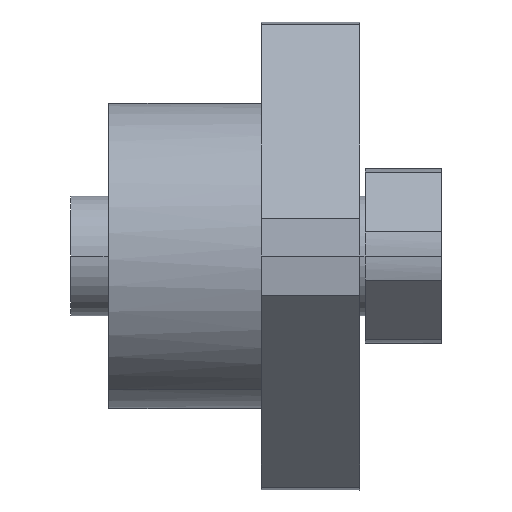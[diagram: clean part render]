
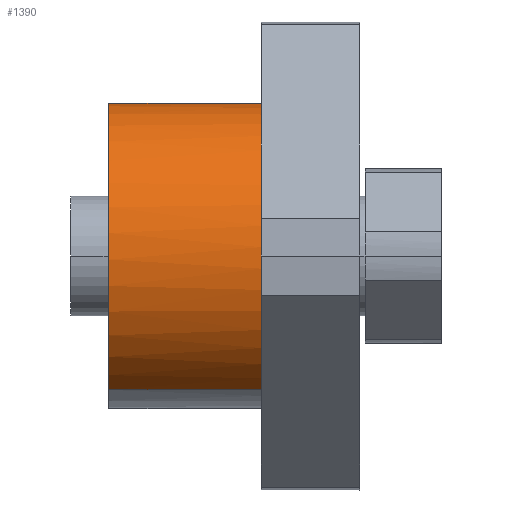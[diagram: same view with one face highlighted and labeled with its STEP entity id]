
A CAD part, front view. The second image highlights one B-rep face of the part: STEP entity #1390.
In plain terms, the highlighted cylindrical face has radius 14 mm (diameter 28 mm), a partial arc.
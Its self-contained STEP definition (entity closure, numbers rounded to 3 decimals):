
#755=CARTESIAN_POINT('Vertex',(-9.,6.712,12.286)) ;
#757=CARTESIAN_POINT('Vertex',(-9.,-6.712,-12.286)) ;
#761=CARTESIAN_POINT('Control Point',(-9.,-6.712,-12.286)) ;
#762=CARTESIAN_POINT('Control Point',(-9.,-7.838,-11.671)) ;
#763=CARTESIAN_POINT('Control Point',(-9.,-8.894,-10.927)) ;
#764=CARTESIAN_POINT('Control Point',(-9.,-9.859,-10.064)) ;
#765=CARTESIAN_POINT('Control Point',(-9.,-11.575,-8.134)) ;
#766=CARTESIAN_POINT('Control Point',(-9.,-12.81,-5.865)) ;
#767=CARTESIAN_POINT('Control Point',(-9.,-13.294,-4.665)) ;
#768=CARTESIAN_POINT('Control Point',(-9.,-13.979,-2.174)) ;
#769=CARTESIAN_POINT('Control Point',(-9.,-14.083,0.407)) ;
#770=CARTESIAN_POINT('Control Point',(-9.,-13.986,1.698)) ;
#771=CARTESIAN_POINT('Control Point',(-9.,-13.498,4.234)) ;
#772=CARTESIAN_POINT('Control Point',(-9.,-12.45,6.595)) ;
#773=CARTESIAN_POINT('Control Point',(-9.,-11.792,7.71)) ;
#774=CARTESIAN_POINT('Control Point',(-9.,-10.232,9.769)) ;
#775=CARTESIAN_POINT('Control Point',(-9.,-8.248,11.422)) ;
#776=CARTESIAN_POINT('Control Point',(-9.,-7.165,12.131)) ;
#777=CARTESIAN_POINT('Control Point',(-9.,-4.855,13.288)) ;
#778=CARTESIAN_POINT('Control Point',(-9.,-2.344,13.892)) ;
#779=CARTESIAN_POINT('Control Point',(-9.,-1.059,14.049)) ;
#780=CARTESIAN_POINT('Control Point',(-9.,1.338,14.064)) ;
#781=CARTESIAN_POINT('Control Point',(-9.,3.679,13.575)) ;
#782=CARTESIAN_POINT('Control Point',(-9.,4.734,13.244)) ;
#783=CARTESIAN_POINT('Control Point',(-9.,5.749,12.812)) ;
#784=CARTESIAN_POINT('Control Point',(-9.,6.712,12.286)) ;
#1348=CARTESIAN_POINT('Line Origine',(-47.378,6.712,12.286)) ;
#1352=CARTESIAN_POINT('Vertex',(-23.,6.712,12.286)) ;
#1355=CARTESIAN_POINT('Line Origine',(-47.378,-6.712,-12.286)) ;
#1359=CARTESIAN_POINT('Vertex',(-23.,-6.712,-12.286)) ;
#1374=CARTESIAN_POINT('Axis2P3D Location',(-47.378,0.,0.)) ;
#1379=CARTESIAN_POINT('Axis2P3D Location',(-23.,0.,0.)) ;
#1349=DIRECTION('Vector Direction',(-1.,0.,0.)) ;
#1356=DIRECTION('Vector Direction',(-1.,0.,0.)) ;
#1375=DIRECTION('Axis2P3D Direction',(-1.,0.,0.)) ;
#1376=DIRECTION('Axis2P3D XDirection',(0.,-0.479,-0.878)) ;
#1380=DIRECTION('Axis2P3D Direction',(-1.,0.,0.)) ;
#1377=AXIS2_PLACEMENT_3D('Cylinder Axis2P3D',#1374,#1375,#1376) ;
#1381=AXIS2_PLACEMENT_3D('Circle Axis2P3D',#1379,#1380,$) ;
#1385=ORIENTED_EDGE('',*,*,#1361,.F.) ;
#1386=ORIENTED_EDGE('',*,*,#785,.T.) ;
#1387=ORIENTED_EDGE('',*,*,#1354,.T.) ;
#1388=ORIENTED_EDGE('',*,*,#1383,.T.) ;
#1350=VECTOR('Line Direction',#1349,1.) ;
#1357=VECTOR('Line Direction',#1356,1.) ;
#1390=ADVANCED_FACE('FK8(H)',(#1389),#1378,.T.) ;
#760=B_SPLINE_CURVE_WITH_KNOTS('',5,(#761,#762,#763,#764,#765,#766,#767,#768,#769,#770,#771,#772,#773,#774,#775,#776,#777,#778,#779,#780,#781,#782,#783,#784),.UNSPECIFIED.,.F.,.U.,(6,3,3,3,3,3,3,6),(0.,9.073,18.146,27.219,36.292,45.365,54.438,62.2),.UNSPECIFIED.) ;
#1382=CIRCLE('generated circle',#1381,14.) ;
#1378=CYLINDRICAL_SURFACE('generated cylinder',#1377,14.) ;
#785=EDGE_CURVE('',#758,#756,#760,.T.) ;
#1354=EDGE_CURVE('',#756,#1353,#1351,.T.) ;
#1361=EDGE_CURVE('',#758,#1360,#1358,.T.) ;
#1383=EDGE_CURVE('',#1353,#1360,#1382,.F.) ;
#1384=EDGE_LOOP('',(#1385,#1386,#1387,#1388)) ;
#1389=FACE_OUTER_BOUND('',#1384,.T.) ;
#1351=LINE('Line',#1348,#1350) ;
#1358=LINE('Line',#1355,#1357) ;
#756=VERTEX_POINT('',#755) ;
#758=VERTEX_POINT('',#757) ;
#1353=VERTEX_POINT('',#1352) ;
#1360=VERTEX_POINT('',#1359) ;
